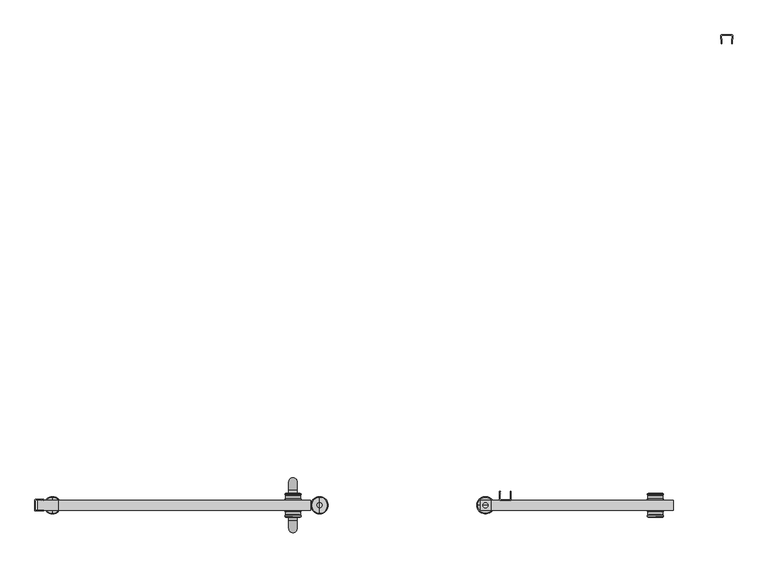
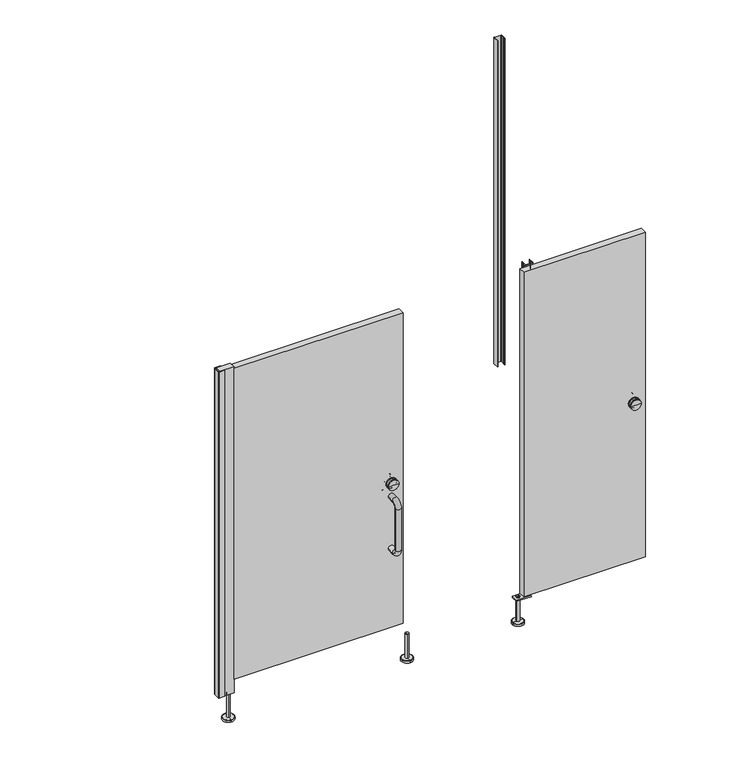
"""IFC4 building model written with IfcOpenShell, lengths in millimetres: proxy geometry, Partition_EuroStyle-Bradley_Corp-ADAStall_1StandardStall-LOFT : Partition_EuroStyle-Bradley_Corp-ADAStall_1StandardStall-LOFT."""

from ifc_helpers import new_model, si_unit, point, frame, frame_2d, origin, place, context, project, spatial, polyline, circle_curve, ellipse_curve, trimmed, segment, composite_curve, outline, extrude, source, transform, mapped, element, save
from ifc_brep_helpers import plane_surface, cylinder_surface, revolved_surface, advanced_brep


def specialty_equipment_4b52170b(model_context):
    return source(origin(), model_context, "Body", "SolidModel", [
        extrude(outline(polyline([(146.0000008, 1477.4203258), (138.0669895, 1477.4203258), (138.0669895, 1557.2675589), (146.0000008, 1557.1689968), (146.0000008, 1477.4203258)])), frame((0.0, -1711.8621549, 0.0), z_axis=(0.0, 1.0, 0.0), x_axis=(0.0, 0.0, 1.0)), (0.0, 0.0, 1.0), 34.925),
        advanced_brep(
        [(1505.0203248, -1694.3996549, 150.0000008), (1487.0203255, -1694.3996549, 150.0000008), (1487.0203255, -1694.3996549, 12.0000001), (1505.0203248, -1694.3996549, 12.0000001), (1496.0203251, -1694.3996549, 150.0000008), (1527.0203241, -1694.3996549, 0.0), (1465.0203262, -1694.3996549, 0.0), (1496.0203251, -1694.3996549, 0.0), (1527.0203241, -1694.3996549, 10.0000001), (1465.0203262, -1694.3996549, 10.0000001), (1525.0179122, -1694.3996549, 12.0000001), (1467.0227381, -1694.3996549, 12.0000001)],
        [
            (0, 1, circle_curve(frame((1496.0203251, -1694.3996549, 150.0000008), z_axis=(0.0, 0.0, -1.0), x_axis=(-1.0, 0.0, 0.0)), 8.9999997)),
            (1, 2),
            (2, 3, circle_curve(frame((1496.0203251, -1694.3996549, 12.0000001), z_axis=(0.0, 0.0, 1.0), x_axis=(-1.0, 0.0, 0.0)), 8.9999997)),
            (3, 0),
            (1, 0, circle_curve(frame((1496.0203251, -1694.3996549, 150.0000008), z_axis=(0.0, 0.0, -1.0), x_axis=(-1.0, 0.0, 0.0)), 8.9999997)),
            (3, 2, circle_curve(frame((1496.0203251, -1694.3996549, 12.0000001), z_axis=(0.0, 0.0, 1.0), x_axis=(-1.0, 0.0, 0.0)), 8.9999997)),
            (4, 1),
            (0, 4),
            (5, 6, circle_curve(frame((1496.0203251, -1694.3996549, 0.0), z_axis=(0.0, 0.0, -1.0), x_axis=(-1.0, 0.0, 0.0)), 30.9999989)),
            (6, 7),
            (7, 5),
            (6, 5, circle_curve(frame((1496.0203251, -1694.3996549, 0.0), z_axis=(0.0, 0.0, -1.0), x_axis=(-1.0, 0.0, 0.0)), 30.9999989)),
            (8, 9, circle_curve(frame((1496.0203251, -1694.3996549, 10.0000001), z_axis=(0.0, 0.0, -1.0), x_axis=(-1.0, 0.0, 0.0)), 30.9999989)),
            (9, 6),
            (5, 8),
            (9, 8, circle_curve(frame((1496.0203251, -1694.3996549, 10.0000001), z_axis=(0.0, 0.0, -1.0), x_axis=(-1.0, 0.0, 0.0)), 30.9999989)),
            (10, 11, circle_curve(frame((1496.0203251, -1694.3996549, 12.0000001), z_axis=(0.0, 0.0, -1.0), x_axis=(-1.0, 0.0, 0.0)), 28.997587)),
            (11, 9),
            (8, 10),
            (11, 10, circle_curve(frame((1496.0203251, -1694.3996549, 12.0000001), z_axis=(0.0, 0.0, -1.0), x_axis=(-1.0, 0.0, 0.0)), 28.997587)),
            (2, 11),
            (10, 3),
        ],
        [
            cylinder_surface(frame((1496.0203251, -1694.3996549, 0.0), z_axis=(0.0, 0.0, 1.0), x_axis=(-1.0, 0.0, 0.0)), 8.9999997),
            plane_surface(frame((1496.0203251, -1694.3996549, 150.0000008), z_axis=(0.0, 0.0, 1.0), x_axis=(-1.0, 0.0, 0.0))),
            plane_surface(frame((1496.0203251, -1694.3996549, 0.0), z_axis=(0.0, 0.0, -1.0), x_axis=(-1.0, 0.0, 0.0))),
            cylinder_surface(frame((1496.0203251, -1694.3996549, 0.0), z_axis=(0.0, 0.0, 1.0), x_axis=(-1.0, 0.0, 0.0)), 30.9999989),
            revolved_surface(polyline([(1465.0203262, -1694.3996549, 10.0000001), (1467.0227381, -1694.3996549, 12.0000001)]), (1496.0203251, -1694.3996549, 0.0), (0.0, 0.0, 1.0)),
            plane_surface(frame((1496.0203251, -1694.3996549, 12.0000001), z_axis=(0.0, 0.0, 1.0), x_axis=(-1.0, 0.0, 0.0))),
        ],
        [
            (0, [[1, 2, 3, 4]]),
            (0, [[5, -4, 6, -2]]),
            (1, [[7, -1, 8]]),
            (1, [[-8, -5, -7]]),
            (2, [[9, 10, 11]]),
            (2, [[12, -11, -10]]),
            (3, [[13, 14, -9, 15]]),
            (3, [[16, -15, -12, -14]]),
            (4, [[17, 18, -13, 19]]),
            (4, [[20, -19, -16, -18]]),
            (5, [[-3, 21, -17, 22]]),
            (5, [[-6, -22, -20, -21]]),
        ],
    ),
        extrude(outline(composite_curve([segment(polyline([(1546.918717, -1643.8999998), (1548.4173026, -1643.8999998)]), True, "CONTINUOUS"), segment(trimmed(circle_curve(frame_2d((1548.4137352, -1644.8990918)), 0.9990984), [point((1548.4173026, -1643.8999998))], [point((1548.8873879, -1645.7787798))], False, "CARTESIAN"), True, "CONTINUOUS"), segment(polyline([(1548.8873879, -1645.7787798), (1548.7662779, -1653.0424298)]), True, "CONTINUOUS"), segment(trimmed(circle_curve(frame_2d((1548.248732, -1653.8999449)), 1.0015917), [point((1548.7662779, -1653.0424298))], [point((1548.7373979, -1654.7742398))], False, "CARTESIAN"), True, "CONTINUOUS"), segment(polyline([(1548.7373979, -1654.7742398), (1548.4433424, -1672.4104531)]), True, "CONTINUOUS"), segment(trimmed(circle_curve(frame_2d((1550.4435342, -1672.3997796)), 2.0002204), [point((1548.4433424, -1672.4104531))], [point((1550.4435342, -1674.4))], True, "CARTESIAN"), True, "CONTINUOUS"), segment(polyline([(1550.4435342, -1674.4), (1584.3278332, -1674.4)]), True, "CONTINUOUS"), segment(trimmed(circle_curve(frame_2d((1584.3768528, -1672.4009061)), 1.9996948), [point((1584.3278332, -1674.4))], [point((1586.3765475, -1672.4))], True, "CARTESIAN"), True, "CONTINUOUS"), segment(polyline([(1586.3765475, -1672.4), (1586.0824961, -1654.7739987)]), True, "CONTINUOUS"), segment(trimmed(circle_curve(frame_2d((1586.5715932, -1653.8999449)), 1.0015917), [point((1586.0824961, -1654.7739987))], [point((1586.0540473, -1653.0424298))], False, "CARTESIAN"), True, "CONTINUOUS"), segment(polyline([(1586.0540473, -1653.0424298), (1585.9329373, -1645.7787798)]), True, "CONTINUOUS"), segment(trimmed(circle_curve(frame_2d((1586.4065899, -1644.8990918)), 0.9990984), [point((1585.9329373, -1645.7787798))], [point((1586.4030225, -1643.8999998))], False, "CARTESIAN"), True, "CONTINUOUS"), segment(polyline([(1586.4030225, -1643.8999998), (1587.9016081, -1643.8999998), (1588.4099473, -1674.37082)]), True, "CONTINUOUS"), segment(trimmed(circle_curve(frame_2d((1586.3807672, -1674.37082)), 2.02918), [point((1588.4099473, -1674.37082))], [point((1586.3807672, -1676.4))], False, "CARTESIAN"), True, "CONTINUOUS"), segment(polyline([(1586.3807672, -1676.4), (1548.4395579, -1676.4)]), True, "CONTINUOUS"), segment(trimmed(circle_curve(frame_2d((1548.4395579, -1674.37082)), 2.02918), [point((1548.4395579, -1676.4))], [point((1546.4103779, -1674.37082))], False, "CARTESIAN"), True, "CONTINUOUS"), segment(polyline([(1546.4103779, -1674.37082), (1546.918717, -1643.8999998)]), True, "CONTINUOUS")], self_intersect=False)), frame((0.0, 0.0, 150.0), z_axis=(0.0, 0.0, 1.0), x_axis=(1.0, 0.0, 0.0)), (0.0, 0.0, 1.0), 1855.0),
        advanced_brep(
        [(787.6, -1676.4, 975.0), (817.6, -1676.4, 975.0), (787.6, -1676.4, 679.0), (817.6, -1676.4, 679.0), (817.6, -1640.4, 975.0), (787.6, -1640.4, 975.0), (817.6, -1610.4, 945.0), (817.6, -1610.4, 709.0), (787.6, -1610.4, 709.0), (787.6, -1610.4, 945.0), (817.6, -1640.4, 679.0), (787.6, -1640.4, 679.0)],
        [
            (0, 1, circle_curve(frame((802.6, -1676.4, 975.0), z_axis=(0.0, -1.0, 0.0), x_axis=(1.0, 0.0, 0.0)), 15.0)),
            (1, 0, circle_curve(frame((802.6, -1676.4, 975.0), z_axis=(0.0, -1.0, 0.0), x_axis=(1.0, 0.0, 0.0)), 15.0)),
            (2, 3, circle_curve(frame((802.6, -1676.4, 679.0), z_axis=(0.0, -1.0, 0.0), x_axis=(1.0, 0.0, 0.0)), 15.0)),
            (3, 2, circle_curve(frame((802.6, -1676.4, 679.0), z_axis=(0.0, -1.0, 0.0), x_axis=(1.0, 0.0, 0.0)), 15.0)),
            (1, 4),
            (4, 5, circle_curve(frame((802.6, -1640.4, 975.0), z_axis=(0.0, -1.0, 0.0), x_axis=(1.0, 0.0, 0.0)), 15.0)),
            (5, 0),
            (5, 4, circle_curve(frame((802.6, -1640.4, 975.0), z_axis=(0.0, -1.0, 0.0), x_axis=(1.0, 0.0, 0.0)), 15.0)),
            (6, 7),
            (7, 8, circle_curve(frame((802.6, -1610.4, 709.0), z_axis=(0.0, 0.0, 1.0), x_axis=(1.0, 0.0, 0.0)), 15.0)),
            (8, 9),
            (9, 6, circle_curve(frame((802.6, -1610.4, 945.0), z_axis=(0.0, 0.0, -1.0), x_axis=(1.0, 0.0, 0.0)), 15.0)),
            (8, 7, circle_curve(frame((802.6, -1610.4, 709.0), z_axis=(0.0, 0.0, 1.0), x_axis=(1.0, 0.0, 0.0)), 15.0)),
            (6, 9, circle_curve(frame((802.6, -1610.4, 945.0), z_axis=(0.0, 0.0, -1.0), x_axis=(1.0, 0.0, 0.0)), 15.0)),
            (10, 3),
            (2, 11),
            (11, 10, circle_curve(frame((802.6, -1640.4, 679.0), z_axis=(0.0, -1.0, 0.0), x_axis=(1.0, 0.0, 0.0)), 15.0)),
            (10, 11, circle_curve(frame((802.6, -1640.4, 679.0), z_axis=(0.0, -1.0, 0.0), x_axis=(1.0, 0.0, 0.0)), 15.0)),
            (9, 5, circle_curve(frame((787.6, -1640.4, 945.0), z_axis=(1.0, 0.0, 0.0), x_axis=(0.0, 0.0, 1.0)), 30.0)),
            (4, 6, circle_curve(frame((817.6, -1640.4, 945.0), z_axis=(-1.0, 0.0, 0.0), x_axis=(0.0, 0.0, 1.0)), 30.0)),
            (11, 8, circle_curve(frame((787.6, -1640.4, 709.0), z_axis=(1.0, 0.0, 0.0), x_axis=(0.0, 1.0, 0.0)), 30.0)),
            (7, 10, circle_curve(frame((817.6, -1640.4, 709.0), z_axis=(-1.0, 0.0, 0.0), x_axis=(0.0, 1.0, 0.0)), 30.0)),
        ],
        [
            plane_surface(frame((802.6, -1676.4, 975.0), z_axis=(0.0, -1.0, 0.0), x_axis=(1.0, 0.0, 0.0))),
            plane_surface(frame((802.6, -1676.4, 679.0), z_axis=(0.0, -1.0, 0.0), x_axis=(1.0, 0.0, 0.0))),
            cylinder_surface(frame((802.6, -1676.4, 975.0), z_axis=(0.0, -1.0, 0.0), x_axis=(1.0, 0.0, 0.0)), 15.0),
            cylinder_surface(frame((802.6, -1610.4, 945.0), z_axis=(0.0, 0.0, 1.0), x_axis=(1.0, 0.0, 0.0)), 15.0),
            cylinder_surface(frame((802.6, -1640.4, 679.0), z_axis=(0.0, 1.0, 0.0), x_axis=(1.0, 0.0, 0.0)), 15.0),
            revolved_surface(trimmed(ellipse_curve(frame((802.6, -1640.4, 975.0), z_axis=(0.0, 1.0, 0.0), x_axis=(1.0, 0.0, 0.0)), 15.0, 15.0), [point((787.6, -1640.4, 975.0))], [point((817.6, -1640.4, 975.0))], True, "CARTESIAN"), (802.6, -1640.4, 945.0), (1.0, 0.0, 0.0)),
            revolved_surface(trimmed(ellipse_curve(frame((802.6, -1640.4, 975.0), z_axis=(0.0, 1.0, 0.0), x_axis=(1.0, 0.0, 0.0)), 15.0, 15.0), [point((817.6, -1640.4, 975.0))], [point((787.6, -1640.4, 975.0))], True, "CARTESIAN"), (802.6, -1640.4, 945.0), (1.0, 0.0, 0.0)),
            revolved_surface(trimmed(ellipse_curve(frame((802.6, -1610.4, 709.0), z_axis=(0.0, 0.0, -1.0), x_axis=(1.0, 0.0, 0.0)), 15.0, 15.0), [point((787.6, -1610.4, 709.0))], [point((817.6, -1610.4, 709.0))], True, "CARTESIAN"), (802.6, -1640.4, 709.0), (1.0, 0.0, 0.0)),
            revolved_surface(trimmed(ellipse_curve(frame((802.6, -1610.4, 709.0), z_axis=(0.0, 0.0, -1.0), x_axis=(1.0, 0.0, 0.0)), 15.0, 15.0), [point((817.6, -1610.4, 709.0))], [point((787.6, -1610.4, 709.0))], True, "CARTESIAN"), (802.6, -1640.4, 709.0), (1.0, 0.0, 0.0)),
        ],
        [
            (0, [[1, 2]]),
            (1, [[3, 4]]),
            (2, [[5, 6, 7, -2]]),
            (2, [[-7, 8, -5, -1]]),
            (3, [[9, 10, 11, 12]]),
            (3, [[-11, 13, -9, 14]]),
            (4, [[15, -3, 16, 17]]),
            (4, [[-16, -4, -15, 18]]),
            (5, [[-12, 19, -6, 20]]),
            (6, [[-14, -20, -8, -19]]),
            (7, [[-17, 21, -10, 22]]),
            (8, [[-18, -22, -13, -21]]),
        ],
    ),
        advanced_brep(
        [(787.6, -1712.4203251, 975.0), (817.6, -1712.4203251, 975.0), (787.6, -1712.4203251, 679.0), (817.6, -1712.4203251, 679.0), (787.6, -1748.4203251, 975.0), (817.6, -1748.4203251, 975.0), (817.6, -1778.4203251, 945.0), (787.6, -1778.4203251, 945.0), (787.6, -1778.4203251, 709.0), (817.6, -1778.4203251, 709.0), (817.6, -1748.4203251, 679.0), (787.6, -1748.4203251, 679.0)],
        [
            (0, 1, circle_curve(frame((802.6, -1712.4203251, 975.0), z_axis=(0.0, 1.0, 0.0), x_axis=(1.0, 0.0, 0.0)), 15.0)),
            (1, 0, circle_curve(frame((802.6, -1712.4203251, 975.0), z_axis=(0.0, 1.0, 0.0), x_axis=(1.0, 0.0, 0.0)), 15.0)),
            (2, 3, circle_curve(frame((802.6, -1712.4203251, 679.0), z_axis=(0.0, 1.0, 0.0), x_axis=(1.0, 0.0, 0.0)), 15.0)),
            (3, 2, circle_curve(frame((802.6, -1712.4203251, 679.0), z_axis=(0.0, 1.0, 0.0), x_axis=(1.0, 0.0, 0.0)), 15.0)),
            (0, 4),
            (4, 5, circle_curve(frame((802.6, -1748.4203251, 975.0), z_axis=(0.0, 1.0, 0.0), x_axis=(1.0, 0.0, 0.0)), 15.0)),
            (5, 1),
            (5, 4, circle_curve(frame((802.6, -1748.4203251, 975.0), z_axis=(0.0, 1.0, 0.0), x_axis=(1.0, 0.0, 0.0)), 15.0)),
            (6, 7, circle_curve(frame((802.6, -1778.4203251, 945.0), z_axis=(0.0, 0.0, -1.0), x_axis=(1.0, 0.0, 0.0)), 15.0)),
            (7, 8),
            (8, 9, circle_curve(frame((802.6, -1778.4203251, 709.0), z_axis=(0.0, 0.0, 1.0), x_axis=(1.0, 0.0, 0.0)), 15.0)),
            (9, 6),
            (7, 6, circle_curve(frame((802.6, -1778.4203251, 945.0), z_axis=(0.0, 0.0, -1.0), x_axis=(1.0, 0.0, 0.0)), 15.0)),
            (9, 8, circle_curve(frame((802.6, -1778.4203251, 709.0), z_axis=(0.0, 0.0, 1.0), x_axis=(1.0, 0.0, 0.0)), 15.0)),
            (10, 11, circle_curve(frame((802.6, -1748.4203251, 679.0), z_axis=(0.0, 1.0, 0.0), x_axis=(1.0, 0.0, 0.0)), 15.0)),
            (11, 2),
            (3, 10),
            (11, 10, circle_curve(frame((802.6, -1748.4203251, 679.0), z_axis=(0.0, 1.0, 0.0), x_axis=(1.0, 0.0, 0.0)), 15.0)),
            (6, 5, circle_curve(frame((817.6, -1748.4203251, 945.0), z_axis=(-1.0, 0.0, 0.0), x_axis=(0.0, 0.0, 1.0)), 30.0)),
            (4, 7, circle_curve(frame((787.6, -1748.4203251, 945.0), z_axis=(1.0, 0.0, 0.0), x_axis=(0.0, 0.0, 1.0)), 30.0)),
            (10, 9, circle_curve(frame((817.6, -1748.4203251, 709.0), z_axis=(-1.0, 0.0, 0.0), x_axis=(0.0, -1.0, 0.0)), 30.0)),
            (8, 11, circle_curve(frame((787.6, -1748.4203251, 709.0), z_axis=(1.0, 0.0, 0.0), x_axis=(0.0, -1.0, 0.0)), 30.0)),
        ],
        [
            plane_surface(frame((802.6, -1712.4203251, 975.0), z_axis=(0.0, 1.0, 0.0), x_axis=(1.0, 0.0, 0.0))),
            plane_surface(frame((802.6, -1712.4203251, 679.0), z_axis=(0.0, 1.0, 0.0), x_axis=(1.0, 0.0, 0.0))),
            cylinder_surface(frame((802.6, -1712.4203251, 975.0), z_axis=(0.0, 1.0, 0.0), x_axis=(1.0, 0.0, 0.0)), 15.0),
            cylinder_surface(frame((802.6, -1778.4203251, 945.0), z_axis=(0.0, 0.0, 1.0), x_axis=(1.0, 0.0, 0.0)), 15.0),
            cylinder_surface(frame((802.6, -1748.4203251, 679.0), z_axis=(0.0, -1.0, 0.0), x_axis=(1.0, 0.0, 0.0)), 15.0),
            revolved_surface(trimmed(ellipse_curve(frame((802.6, -1748.4203251, 975.0), z_axis=(0.0, 1.0, 0.0), x_axis=(1.0, 0.0, 0.0)), 15.0, 15.0), [point((787.6, -1748.4203251, 975.0))], [point((817.6, -1748.4203251, 975.0))], True, "CARTESIAN"), (802.6, -1748.4203251, 945.0), (1.0, 0.0, 0.0)),
            revolved_surface(trimmed(ellipse_curve(frame((802.6, -1748.4203251, 975.0), z_axis=(0.0, 1.0, 0.0), x_axis=(1.0, 0.0, 0.0)), 15.0, 15.0), [point((817.6, -1748.4203251, 975.0))], [point((787.6, -1748.4203251, 975.0))], True, "CARTESIAN"), (802.6, -1748.4203251, 945.0), (1.0, 0.0, 0.0)),
            revolved_surface(trimmed(ellipse_curve(frame((802.6, -1778.4203251, 709.0), z_axis=(0.0, 0.0, 1.0), x_axis=(1.0, 0.0, 0.0)), 15.0, 15.0), [point((787.6, -1778.4203251, 709.0))], [point((817.6, -1778.4203251, 709.0))], True, "CARTESIAN"), (802.6, -1748.4203251, 709.0), (1.0, 0.0, 0.0)),
            revolved_surface(trimmed(ellipse_curve(frame((802.6, -1778.4203251, 709.0), z_axis=(0.0, 0.0, 1.0), x_axis=(1.0, 0.0, 0.0)), 15.0, 15.0), [point((817.6, -1778.4203251, 709.0))], [point((787.6, -1778.4203251, 709.0))], True, "CARTESIAN"), (802.6, -1748.4203251, 709.0), (1.0, 0.0, 0.0)),
        ],
        [
            (0, [[1, 2]]),
            (1, [[3, 4]]),
            (2, [[-1, 5, 6, 7]]),
            (2, [[-2, -7, 8, -5]]),
            (3, [[9, 10, 11, 12]]),
            (3, [[13, -12, 14, -10]]),
            (4, [[15, 16, -4, 17]]),
            (4, [[18, -17, -3, -16]]),
            (5, [[19, -6, 20, -9]]),
            (6, [[-20, -8, -19, -13]]),
            (7, [[21, -11, 22, -15]]),
            (8, [[-22, -14, -21, -18]]),
        ],
    ),
        advanced_brep(
        [(774.025, -1676.4203251, 1050.0), (831.175, -1676.4203251, 1050.0), (802.6, -1676.4203251, 1050.0), (774.025, -1671.6578251, 1050.0), (831.175, -1671.6578251, 1050.0), (774.025, -1652.6078251, 1050.0), (831.175, -1652.6078251, 1050.0), (831.175, -1657.3703251, 1050.0), (774.025, -1657.3703251, 1050.0), (829.5875, -1658.9578251, 1050.0), (775.6125, -1658.9578251, 1050.0), (829.5875, -1670.0703251, 1050.0), (775.6125, -1670.0703251, 1050.0), (802.6, -1651.0203251, 1050.0)],
        [
            (0, 1, circle_curve(frame((802.6, -1676.4203251, 1050.0), z_axis=(0.0, -1.0, 0.0), x_axis=(1.0, 0.0, 0.0)), 28.575)),
            (1, 2),
            (2, 0),
            (1, 0, circle_curve(frame((802.6, -1676.4203251, 1050.0), z_axis=(0.0, -1.0, 0.0), x_axis=(1.0, 0.0, 0.0)), 28.575)),
            (3, 4, circle_curve(frame((802.6, -1671.6578251, 1050.0), z_axis=(0.0, -1.0, 0.0), x_axis=(1.0, 0.0, 0.0)), 28.575)),
            (4, 1),
            (0, 3),
            (4, 3, circle_curve(frame((802.6, -1671.6578251, 1050.0), z_axis=(0.0, -1.0, 0.0), x_axis=(1.0, 0.0, 0.0)), 28.575)),
            (5, 6, circle_curve(frame((802.6, -1652.6078251, 1050.0), z_axis=(0.0, -1.0, 0.0), x_axis=(1.0, 0.0, 0.0)), 28.575)),
            (6, 7),
            (7, 8, circle_curve(frame((802.6, -1657.3703251, 1050.0), z_axis=(0.0, 1.0, 0.0), x_axis=(1.0, 0.0, 0.0)), 28.575)),
            (8, 5),
            (6, 5, circle_curve(frame((802.6, -1652.6078251, 1050.0), z_axis=(0.0, -1.0, 0.0), x_axis=(1.0, 0.0, 0.0)), 28.575)),
            (8, 7, circle_curve(frame((802.6, -1657.3703251, 1050.0), z_axis=(0.0, 1.0, 0.0), x_axis=(1.0, 0.0, 0.0)), 28.575)),
            (7, 9, circle_curve(frame((831.175, -1658.9578251, 1050.0), z_axis=(0.0, 0.0, 1.0), x_axis=(1.0, 0.0, 0.0)), 1.5875)),
            (9, 10, circle_curve(frame((802.6, -1658.9578251, 1050.0), z_axis=(0.0, 1.0, 0.0), x_axis=(1.0, 0.0, 0.0)), 26.9875)),
            (10, 8, circle_curve(frame((774.025, -1658.9578251, 1050.0), z_axis=(0.0, 0.0, 1.0), x_axis=(-1.0, 0.0, 0.0)), 1.5875)),
            (10, 9, circle_curve(frame((802.6, -1658.9578251, 1050.0), z_axis=(0.0, 1.0, 0.0), x_axis=(1.0, 0.0, 0.0)), 26.9875)),
            (9, 11),
            (11, 12, circle_curve(frame((802.6, -1670.0703251, 1050.0), z_axis=(0.0, 1.0, 0.0), x_axis=(1.0, 0.0, 0.0)), 26.9875)),
            (12, 10),
            (12, 11, circle_curve(frame((802.6, -1670.0703251, 1050.0), z_axis=(0.0, 1.0, 0.0), x_axis=(1.0, 0.0, 0.0)), 26.9875)),
            (11, 4, circle_curve(frame((831.175, -1670.0703251, 1050.0), z_axis=(0.0, 0.0, 1.0), x_axis=(1.0, 0.0, 0.0)), 1.5875)),
            (3, 12, circle_curve(frame((774.025, -1670.0703251, 1050.0), z_axis=(0.0, 0.0, 1.0), x_axis=(-1.0, 0.0, 0.0)), 1.5875)),
            (13, 6, circle_curve(frame((806.2941234, -1842.4948544, 1050.0), z_axis=(0.0, 0.0, -1.0), x_axis=(1.0, 0.0, 0.0)), 191.5101613)),
            (5, 13, circle_curve(frame((798.9058766, -1842.4948544, 1050.0), z_axis=(0.0, 0.0, -1.0), x_axis=(-1.0, 0.0, 0.0)), 191.5101613)),
        ],
        [
            plane_surface(frame((802.6, -1676.4203251, 1050.0), z_axis=(0.0, -1.0, 0.0), x_axis=(1.0, 0.0, 0.0))),
            cylinder_surface(frame((802.6, -1676.4203251, 1050.0), z_axis=(0.0, 1.0, 0.0), x_axis=(1.0, 0.0, 0.0)), 28.575),
            revolved_surface(trimmed(ellipse_curve(frame((831.175, -1658.9578251, 1050.0), z_axis=(0.0, 0.0, -1.0), x_axis=(1.0, 0.0, 0.0)), 1.5875, 1.5875), [point((829.5875, -1658.9578251, 1050.0))], [point((831.175, -1657.3703251, 1050.0))], True, "CARTESIAN"), (802.6, -1676.4203251, 1050.0), (0.0, 1.0, 0.0)),
            cylinder_surface(frame((802.6, -1676.4203251, 1050.0), z_axis=(0.0, 1.0, 0.0), x_axis=(1.0, 0.0, 0.0)), 26.9875),
            revolved_surface(trimmed(ellipse_curve(frame((831.175, -1670.0703251, 1050.0), z_axis=(0.0, 0.0, -1.0), x_axis=(1.0, 0.0, 0.0)), 1.5875, 1.5875), [point((831.175, -1671.6578251, 1050.0))], [point((829.5875, -1670.0703251, 1050.0))], True, "CARTESIAN"), (802.6, -1676.4203251, 1050.0), (0.0, 1.0, 0.0)),
            revolved_surface(trimmed(ellipse_curve(frame((806.2941234, -1842.4948544, 1050.0), z_axis=(0.0, 0.0, 1.0), x_axis=(1.0, 0.0, 0.0)), 191.5101613, 191.5101613), [point((831.175, -1652.6078251, 1050.0))], [point((802.6, -1651.0203251, 1050.0))], True, "CARTESIAN"), (802.6, -1676.4203251, 1050.0), (0.0, 1.0, 0.0)),
        ],
        [
            (0, [[1, 2, 3]]),
            (0, [[4, -3, -2]]),
            (1, [[5, 6, -1, 7]]),
            (1, [[8, -7, -4, -6]]),
            (1, [[9, 10, 11, 12]]),
            (1, [[13, -12, 14, -10]]),
            (2, [[-11, 15, 16, 17]]),
            (2, [[-14, -17, 18, -15]]),
            (3, [[-16, 19, 20, 21]]),
            (3, [[-18, -21, 22, -19]]),
            (4, [[-20, 23, -5, 24]]),
            (4, [[-22, -24, -8, -23]]),
            (5, [[25, -9, 26]]),
            (5, [[-26, -13, -25]]),
        ],
    ),
        advanced_brep(
        [(802.6, -1712.4203251, 1050.0), (831.175, -1712.4203251, 1050.0), (774.025, -1712.4203251, 1050.0), (831.175, -1717.1828251, 1050.0), (774.025, -1717.1828251, 1050.0), (774.025, -1731.4703251, 1050.0), (831.175, -1731.4703251, 1050.0), (831.175, -1736.2328251, 1050.0), (774.025, -1736.2328251, 1050.0), (775.6125, -1729.8828251, 1050.0), (829.5875, -1729.8828251, 1050.0), (775.6125, -1718.7703251, 1050.0), (829.5875, -1718.7703251, 1050.0), (802.6, -1737.8203251, 1050.0)],
        [
            (0, 1),
            (1, 2, circle_curve(frame((802.6, -1712.4203251, 1050.0), z_axis=(0.0, 1.0, 0.0), x_axis=(1.0, 0.0, 0.0)), 28.575)),
            (2, 0),
            (2, 1, circle_curve(frame((802.6, -1712.4203251, 1050.0), z_axis=(0.0, 1.0, 0.0), x_axis=(1.0, 0.0, 0.0)), 28.575)),
            (1, 3),
            (3, 4, circle_curve(frame((802.6, -1717.1828251, 1050.0), z_axis=(0.0, 1.0, 0.0), x_axis=(1.0, 0.0, 0.0)), 28.575)),
            (4, 2),
            (4, 3, circle_curve(frame((802.6, -1717.1828251, 1050.0), z_axis=(0.0, 1.0, 0.0), x_axis=(1.0, 0.0, 0.0)), 28.575)),
            (5, 6, circle_curve(frame((802.6, -1731.4703251, 1050.0), z_axis=(0.0, -1.0, 0.0), x_axis=(1.0, 0.0, 0.0)), 28.575)),
            (6, 7),
            (7, 8, circle_curve(frame((802.6, -1736.2328251, 1050.0), z_axis=(0.0, 1.0, 0.0), x_axis=(1.0, 0.0, 0.0)), 28.575)),
            (8, 5),
            (6, 5, circle_curve(frame((802.6, -1731.4703251, 1050.0), z_axis=(0.0, -1.0, 0.0), x_axis=(1.0, 0.0, 0.0)), 28.575)),
            (8, 7, circle_curve(frame((802.6, -1736.2328251, 1050.0), z_axis=(0.0, 1.0, 0.0), x_axis=(1.0, 0.0, 0.0)), 28.575)),
            (9, 10, circle_curve(frame((802.6, -1729.8828251, 1050.0), z_axis=(0.0, -1.0, 0.0), x_axis=(1.0, 0.0, 0.0)), 26.9875)),
            (10, 6, circle_curve(frame((831.175, -1729.8828251, 1050.0), z_axis=(0.0, 0.0, 1.0), x_axis=(1.0, 0.0, 0.0)), 1.5875)),
            (5, 9, circle_curve(frame((774.025, -1729.8828251, 1050.0), z_axis=(0.0, 0.0, 1.0), x_axis=(-1.0, 0.0, 0.0)), 1.5875)),
            (10, 9, circle_curve(frame((802.6, -1729.8828251, 1050.0), z_axis=(0.0, -1.0, 0.0), x_axis=(1.0, 0.0, 0.0)), 26.9875)),
            (11, 12, circle_curve(frame((802.6, -1718.7703251, 1050.0), z_axis=(0.0, -1.0, 0.0), x_axis=(1.0, 0.0, 0.0)), 26.9875)),
            (12, 10),
            (9, 11),
            (12, 11, circle_curve(frame((802.6, -1718.7703251, 1050.0), z_axis=(0.0, -1.0, 0.0), x_axis=(1.0, 0.0, 0.0)), 26.9875)),
            (3, 12, circle_curve(frame((831.175, -1718.7703251, 1050.0), z_axis=(0.0, 0.0, 1.0), x_axis=(1.0, 0.0, 0.0)), 1.5875)),
            (11, 4, circle_curve(frame((774.025, -1718.7703251, 1050.0), z_axis=(0.0, 0.0, 1.0), x_axis=(-1.0, 0.0, 0.0)), 1.5875)),
            (7, 13, circle_curve(frame((806.2941234, -1546.3457959, 1050.0), z_axis=(0.0, 0.0, -1.0), x_axis=(1.0, 0.0, 0.0)), 191.5101613)),
            (13, 8, circle_curve(frame((798.9058766, -1546.3457959, 1050.0), z_axis=(0.0, 0.0, -1.0), x_axis=(-1.0, 0.0, 0.0)), 191.5101613)),
        ],
        [
            plane_surface(frame((802.6, -1712.4203251, 1050.0), z_axis=(0.0, 1.0, 0.0), x_axis=(1.0, 0.0, 0.0))),
            cylinder_surface(frame((802.6, -1712.4203251, 1050.0), z_axis=(0.0, 1.0, 0.0), x_axis=(1.0, 0.0, 0.0)), 28.575),
            revolved_surface(trimmed(ellipse_curve(frame((831.175, -1729.8828251, 1050.0), z_axis=(0.0, 0.0, -1.0), x_axis=(1.0, 0.0, 0.0)), 1.5875, 1.5875), [point((831.175, -1731.4703251, 1050.0))], [point((829.5875, -1729.8828251, 1050.0))], True, "CARTESIAN"), (802.6, -1712.4203251, 1050.0), (0.0, 1.0, 0.0)),
            cylinder_surface(frame((802.6, -1712.4203251, 1050.0), z_axis=(0.0, 1.0, 0.0), x_axis=(1.0, 0.0, 0.0)), 26.9875),
            revolved_surface(trimmed(ellipse_curve(frame((831.175, -1718.7703251, 1050.0), z_axis=(0.0, 0.0, -1.0), x_axis=(1.0, 0.0, 0.0)), 1.5875, 1.5875), [point((829.5875, -1718.7703251, 1050.0))], [point((831.175, -1717.1828251, 1050.0))], True, "CARTESIAN"), (802.6, -1712.4203251, 1050.0), (0.0, 1.0, 0.0)),
            revolved_surface(trimmed(ellipse_curve(frame((806.2941234, -1546.3457959, 1050.0), z_axis=(0.0, 0.0, 1.0), x_axis=(1.0, 0.0, 0.0)), 191.5101613, 191.5101613), [point((802.6, -1737.8203251, 1050.0))], [point((831.175, -1736.2328251, 1050.0))], True, "CARTESIAN"), (802.6, -1712.4203251, 1050.0), (0.0, 1.0, 0.0)),
        ],
        [
            (0, [[1, 2, 3]]),
            (0, [[-3, 4, -1]]),
            (1, [[-2, 5, 6, 7]]),
            (1, [[-4, -7, 8, -5]]),
            (1, [[9, 10, 11, 12]]),
            (1, [[13, -12, 14, -10]]),
            (2, [[15, 16, -9, 17]]),
            (2, [[18, -17, -13, -16]]),
            (3, [[19, 20, -15, 21]]),
            (3, [[22, -21, -18, -20]]),
            (4, [[-6, 23, -19, 24]]),
            (4, [[-8, -24, -22, -23]]),
            (5, [[-11, 25, 26]]),
            (5, [[-14, -26, -25]]),
        ],
    ),
        extrude(outline(polyline([(-43.0032348, -1676.4), (866.1, -1676.4), (866.1, -1712.4203251), (-43.0032348, -1712.4203251), (-43.0032348, -1676.4)])), frame((0.0, 0.0, 228.6), z_axis=(0.0, 0.0, 1.0), x_axis=(1.0, 0.0, 0.0)), (0.0, 0.0, 1.0), 1767.4),
        advanced_brep(
        [(-63.5018313, -1685.4101629, 150.0000008), (-63.5018313, -1703.4101623, 150.0000008), (-63.5018313, -1703.4101623, 12.0000001), (-63.5018313, -1685.4101629, 12.0000001), (-63.5018313, -1694.4101626, 150.0000008), (-63.5018313, -1663.4101636, 0.0), (-63.5018313, -1725.4101615, 0.0), (-63.5018313, -1694.4101626, 0.0), (-63.5018313, -1663.4101636, 10.0000001), (-63.5018313, -1725.4101615, 10.0000001), (-63.5018313, -1665.4125756, 12.0000001), (-63.5018313, -1723.4077496, 12.0000001)],
        [
            (0, 1, circle_curve(frame((-63.5018313, -1694.4101626, 150.0000008), z_axis=(0.0, 0.0, -1.0), x_axis=(0.0, -1.0, 0.0)), 8.9999997)),
            (1, 2),
            (2, 3, circle_curve(frame((-63.5018313, -1694.4101626, 12.0000001), z_axis=(0.0, 0.0, 1.0), x_axis=(0.0, -1.0, 0.0)), 8.9999997)),
            (3, 0),
            (1, 0, circle_curve(frame((-63.5018313, -1694.4101626, 150.0000008), z_axis=(0.0, 0.0, -1.0), x_axis=(0.0, -1.0, 0.0)), 8.9999997)),
            (3, 2, circle_curve(frame((-63.5018313, -1694.4101626, 12.0000001), z_axis=(0.0, 0.0, 1.0), x_axis=(0.0, -1.0, 0.0)), 8.9999997)),
            (4, 1),
            (0, 4),
            (5, 6, circle_curve(frame((-63.5018313, -1694.4101626, 0.0), z_axis=(0.0, 0.0, -1.0), x_axis=(0.0, -1.0, 0.0)), 30.9999989)),
            (6, 7),
            (7, 5),
            (6, 5, circle_curve(frame((-63.5018313, -1694.4101626, 0.0), z_axis=(0.0, 0.0, -1.0), x_axis=(0.0, -1.0, 0.0)), 30.9999989)),
            (8, 9, circle_curve(frame((-63.5018313, -1694.4101626, 10.0000001), z_axis=(0.0, 0.0, -1.0), x_axis=(0.0, -1.0, 0.0)), 30.9999989)),
            (9, 6),
            (5, 8),
            (9, 8, circle_curve(frame((-63.5018313, -1694.4101626, 10.0000001), z_axis=(0.0, 0.0, -1.0), x_axis=(0.0, -1.0, 0.0)), 30.9999989)),
            (10, 11, circle_curve(frame((-63.5018313, -1694.4101626, 12.0000001), z_axis=(0.0, 0.0, -1.0), x_axis=(0.0, -1.0, 0.0)), 28.997587)),
            (11, 9),
            (8, 10),
            (11, 10, circle_curve(frame((-63.5018313, -1694.4101626, 12.0000001), z_axis=(0.0, 0.0, -1.0), x_axis=(0.0, -1.0, 0.0)), 28.997587)),
            (2, 11),
            (10, 3),
        ],
        [
            cylinder_surface(frame((-63.5018313, -1694.4101626, 0.0), z_axis=(0.0, 0.0, 1.0), x_axis=(0.0, -1.0, 0.0)), 8.9999997),
            plane_surface(frame((-63.5018313, -1694.4101626, 150.0000008), z_axis=(0.0, 0.0, 1.0), x_axis=(0.0, -1.0, 0.0))),
            plane_surface(frame((-63.5018313, -1694.4101626, 0.0), z_axis=(0.0, 0.0, -1.0), x_axis=(0.0, -1.0, 0.0))),
            cylinder_surface(frame((-63.5018313, -1694.4101626, 0.0), z_axis=(0.0, 0.0, 1.0), x_axis=(0.0, -1.0, 0.0)), 30.9999989),
            revolved_surface(polyline([(-63.5018313, -1725.4101615, 10.0000001), (-63.5018313, -1723.4077496, 12.0000001)]), (-63.5018313, -1694.4101626, 0.0), (0.0, 0.0, 1.0)),
            plane_surface(frame((-63.5018313, -1694.4101626, 12.0000001), z_axis=(0.0, 0.0, 1.0), x_axis=(0.0, -1.0, 0.0))),
        ],
        [
            (0, [[1, 2, 3, 4]]),
            (0, [[5, -4, 6, -2]]),
            (1, [[7, -1, 8]]),
            (1, [[-8, -5, -7]]),
            (2, [[9, 10, 11]]),
            (2, [[12, -11, -10]]),
            (3, [[13, 14, -9, 15]]),
            (3, [[16, -15, -12, -14]]),
            (4, [[17, 18, -13, 19]]),
            (4, [[20, -19, -16, -18]]),
            (5, [[-3, 21, -17, 22]]),
            (5, [[-6, -22, -20, -21]]),
        ],
    ),
        extrude(outline(composite_curve([segment(polyline([(-94.4999998, -1673.918717), (-94.4999998, -1675.4173026)]), True, "CONTINUOUS"), segment(trimmed(circle_curve(frame_2d((-95.4990918, -1675.4137352)), 0.9990984), [point((-94.4999998, -1675.4173026))], [point((-96.3787798, -1675.8873879))], False, "CARTESIAN"), True, "CONTINUOUS"), segment(polyline([(-96.3787798, -1675.8873879), (-103.6424298, -1675.7662779)]), True, "CONTINUOUS"), segment(trimmed(circle_curve(frame_2d((-104.4999449, -1675.248732)), 1.0015917), [point((-103.6424298, -1675.7662779))], [point((-105.3742398, -1675.7373979))], False, "CARTESIAN"), True, "CONTINUOUS"), segment(polyline([(-105.3742398, -1675.7373979), (-123.0104531, -1675.4433424)]), True, "CONTINUOUS"), segment(trimmed(circle_curve(frame_2d((-122.9997796, -1677.4435342)), 2.0002204), [point((-123.0104531, -1675.4433424))], [point((-125.0, -1677.4435342))], True, "CARTESIAN"), True, "CONTINUOUS"), segment(polyline([(-125.0, -1677.4435342), (-125.0, -1711.3278332)]), True, "CONTINUOUS"), segment(trimmed(circle_curve(frame_2d((-123.0009061, -1711.3768528)), 1.9996948), [point((-125.0, -1711.3278332))], [point((-123.0, -1713.3765475))], True, "CARTESIAN"), True, "CONTINUOUS"), segment(polyline([(-123.0, -1713.3765475), (-105.3739987, -1713.0824961)]), True, "CONTINUOUS"), segment(trimmed(circle_curve(frame_2d((-104.4999449, -1713.5715932)), 1.0015917), [point((-105.3739987, -1713.0824961))], [point((-103.6424298, -1713.0540473))], False, "CARTESIAN"), True, "CONTINUOUS"), segment(polyline([(-103.6424298, -1713.0540473), (-96.3787798, -1712.9329373)]), True, "CONTINUOUS"), segment(trimmed(circle_curve(frame_2d((-95.4990918, -1713.4065899)), 0.9990984), [point((-96.3787798, -1712.9329373))], [point((-94.4999998, -1713.4030225))], False, "CARTESIAN"), True, "CONTINUOUS"), segment(polyline([(-94.4999998, -1713.4030225), (-94.4999998, -1714.9016081), (-124.97082, -1715.4099473)]), True, "CONTINUOUS"), segment(trimmed(circle_curve(frame_2d((-124.97082, -1713.3807672)), 2.02918), [point((-124.97082, -1715.4099473))], [point((-127.0, -1713.3807672))], False, "CARTESIAN"), True, "CONTINUOUS"), segment(polyline([(-127.0, -1713.3807672), (-127.0, -1675.4395579)]), True, "CONTINUOUS"), segment(trimmed(circle_curve(frame_2d((-124.97082, -1675.4395579)), 2.02918), [point((-127.0, -1675.4395579))], [point((-124.97082, -1673.4103779))], False, "CARTESIAN"), True, "CONTINUOUS"), segment(polyline([(-124.97082, -1673.4103779), (-94.4999998, -1673.918717)]), True, "CONTINUOUS")], self_intersect=False)), frame((0.0, 0.0, 150.0), z_axis=(0.0, 0.0, 1.0), x_axis=(1.0, 0.0, 0.0)), (0.0, 0.0, 1.0), 1855.0),
        extrude(outline(polyline([(-117.000072, -1676.4), (-43.0032348, -1676.4), (-43.0032348, -1712.4203251), (-117.000072, -1712.4203251), (-117.000072, -1676.4)])), frame((0.0, 0.0, 150.0), z_axis=(0.0, 0.0, 1.0), x_axis=(1.0, 0.0, 0.0)), (0.0, 0.0, 1.0), 1855.0),
        advanced_brep(
        [(898.5233172, -1685.3996552, 150.0000008), (898.5233172, -1703.3996545, 150.0000008), (898.5233172, -1703.3996545, 12.0000001), (898.5233172, -1685.3996552, 12.0000001), (898.5233172, -1694.3996549, 150.0000008), (898.5233172, -1663.3996559, 0.0), (898.5233172, -1725.3996538, 0.0), (898.5233172, -1694.3996549, 0.0), (898.5233172, -1663.3996559, 10.0000001), (898.5233172, -1725.3996538, 10.0000001), (898.5233172, -1665.4020678, 12.0000001), (898.5233172, -1723.3972419, 12.0000001)],
        [
            (0, 1, circle_curve(frame((898.5233172, -1694.3996549, 150.0000008), z_axis=(0.0, 0.0, -1.0), x_axis=(0.0, -1.0, 0.0)), 8.9999997)),
            (1, 2),
            (2, 3, circle_curve(frame((898.5233172, -1694.3996549, 12.0000001), z_axis=(0.0, 0.0, 1.0), x_axis=(0.0, -1.0, 0.0)), 8.9999997)),
            (3, 0),
            (1, 0, circle_curve(frame((898.5233172, -1694.3996549, 150.0000008), z_axis=(0.0, 0.0, -1.0), x_axis=(0.0, -1.0, 0.0)), 8.9999997)),
            (3, 2, circle_curve(frame((898.5233172, -1694.3996549, 12.0000001), z_axis=(0.0, 0.0, 1.0), x_axis=(0.0, -1.0, 0.0)), 8.9999997)),
            (4, 1),
            (0, 4),
            (5, 6, circle_curve(frame((898.5233172, -1694.3996549, 0.0), z_axis=(0.0, 0.0, -1.0), x_axis=(0.0, -1.0, 0.0)), 30.9999989)),
            (6, 7),
            (7, 5),
            (6, 5, circle_curve(frame((898.5233172, -1694.3996549, 0.0), z_axis=(0.0, 0.0, -1.0), x_axis=(0.0, -1.0, 0.0)), 30.9999989)),
            (8, 9, circle_curve(frame((898.5233172, -1694.3996549, 10.0000001), z_axis=(0.0, 0.0, -1.0), x_axis=(0.0, -1.0, 0.0)), 30.9999989)),
            (9, 6),
            (5, 8),
            (9, 8, circle_curve(frame((898.5233172, -1694.3996549, 10.0000001), z_axis=(0.0, 0.0, -1.0), x_axis=(0.0, -1.0, 0.0)), 30.9999989)),
            (10, 11, circle_curve(frame((898.5233172, -1694.3996549, 12.0000001), z_axis=(0.0, 0.0, -1.0), x_axis=(0.0, -1.0, 0.0)), 28.997587)),
            (11, 9),
            (8, 10),
            (11, 10, circle_curve(frame((898.5233172, -1694.3996549, 12.0000001), z_axis=(0.0, 0.0, -1.0), x_axis=(0.0, -1.0, 0.0)), 28.997587)),
            (2, 11),
            (10, 3),
        ],
        [
            cylinder_surface(frame((898.5233172, -1694.3996549, 0.0), z_axis=(0.0, 0.0, 1.0), x_axis=(0.0, -1.0, 0.0)), 8.9999997),
            plane_surface(frame((898.5233172, -1694.3996549, 150.0000008), z_axis=(0.0, 0.0, 1.0), x_axis=(0.0, -1.0, 0.0))),
            plane_surface(frame((898.5233172, -1694.3996549, 0.0), z_axis=(0.0, 0.0, -1.0), x_axis=(0.0, -1.0, 0.0))),
            cylinder_surface(frame((898.5233172, -1694.3996549, 0.0), z_axis=(0.0, 0.0, 1.0), x_axis=(0.0, -1.0, 0.0)), 30.9999989),
            revolved_surface(polyline([(898.5233172, -1725.3996538, 10.0000001), (898.5233172, -1723.3972419, 12.0000001)]), (898.5233172, -1694.3996549, 0.0), (0.0, 0.0, 1.0)),
            plane_surface(frame((898.5233172, -1694.3996549, 12.0000001), z_axis=(0.0, 0.0, 1.0), x_axis=(0.0, -1.0, 0.0))),
        ],
        [
            (0, [[1, 2, 3, 4]]),
            (0, [[5, -4, 6, -2]]),
            (1, [[7, -1, 8]]),
            (1, [[-8, -5, -7]]),
            (2, [[9, 10, 11]]),
            (2, [[12, -11, -10]]),
            (3, [[13, 14, -9, 15]]),
            (3, [[16, -15, -12, -14]]),
            (4, [[17, 18, -13, 19]]),
            (4, [[20, -19, -16, -18]]),
            (5, [[-3, 21, -17, 22]]),
            (5, [[-6, -22, -20, -21]]),
        ],
    ),
        advanced_brep(
        [(2080.0451766, -1676.4098174, 1050.0), (2137.1951766, -1676.4098174, 1050.0), (2108.6201766, -1676.4098174, 1050.0), (2080.0451766, -1671.6473174, 1050.0), (2137.1951766, -1671.6473174, 1050.0), (2080.0451766, -1652.5973174, 1050.0), (2137.1951766, -1652.5973174, 1050.0), (2137.1951766, -1657.3598174, 1050.0), (2080.0451766, -1657.3598174, 1050.0), (2135.6076766, -1658.9473174, 1050.0), (2081.6326766, -1658.9473174, 1050.0), (2135.6076766, -1670.0598174, 1050.0), (2081.6326766, -1670.0598174, 1050.0), (2108.6201766, -1651.0098174, 1050.0)],
        [
            (0, 1, circle_curve(frame((2108.6201766, -1676.4098174, 1050.0), z_axis=(0.0, -1.0, 0.0), x_axis=(1.0, 0.0, 0.0)), 28.575)),
            (1, 2),
            (2, 0),
            (1, 0, circle_curve(frame((2108.6201766, -1676.4098174, 1050.0), z_axis=(0.0, -1.0, 0.0), x_axis=(1.0, 0.0, 0.0)), 28.575)),
            (3, 4, circle_curve(frame((2108.6201766, -1671.6473174, 1050.0), z_axis=(0.0, -1.0, 0.0), x_axis=(1.0, 0.0, 0.0)), 28.575)),
            (4, 1),
            (0, 3),
            (4, 3, circle_curve(frame((2108.6201766, -1671.6473174, 1050.0), z_axis=(0.0, -1.0, 0.0), x_axis=(1.0, 0.0, 0.0)), 28.575)),
            (5, 6, circle_curve(frame((2108.6201766, -1652.5973174, 1050.0), z_axis=(0.0, -1.0, 0.0), x_axis=(1.0, 0.0, 0.0)), 28.575)),
            (6, 7),
            (7, 8, circle_curve(frame((2108.6201766, -1657.3598174, 1050.0), z_axis=(0.0, 1.0, 0.0), x_axis=(1.0, 0.0, 0.0)), 28.575)),
            (8, 5),
            (6, 5, circle_curve(frame((2108.6201766, -1652.5973174, 1050.0), z_axis=(0.0, -1.0, 0.0), x_axis=(1.0, 0.0, 0.0)), 28.575)),
            (8, 7, circle_curve(frame((2108.6201766, -1657.3598174, 1050.0), z_axis=(0.0, 1.0, 0.0), x_axis=(1.0, 0.0, 0.0)), 28.575)),
            (7, 9, circle_curve(frame((2137.1951766, -1658.9473174, 1050.0), z_axis=(0.0, 0.0, 1.0), x_axis=(1.0, 0.0, 0.0)), 1.5875)),
            (9, 10, circle_curve(frame((2108.6201766, -1658.9473174, 1050.0), z_axis=(0.0, 1.0, 0.0), x_axis=(1.0, 0.0, 0.0)), 26.9875)),
            (10, 8, circle_curve(frame((2080.0451766, -1658.9473174, 1050.0), z_axis=(0.0, 0.0, 1.0), x_axis=(-1.0, 0.0, 0.0)), 1.5875)),
            (10, 9, circle_curve(frame((2108.6201766, -1658.9473174, 1050.0), z_axis=(0.0, 1.0, 0.0), x_axis=(1.0, 0.0, 0.0)), 26.9875)),
            (9, 11),
            (11, 12, circle_curve(frame((2108.6201766, -1670.0598174, 1050.0), z_axis=(0.0, 1.0, 0.0), x_axis=(1.0, 0.0, 0.0)), 26.9875)),
            (12, 10),
            (12, 11, circle_curve(frame((2108.6201766, -1670.0598174, 1050.0), z_axis=(0.0, 1.0, 0.0), x_axis=(1.0, 0.0, 0.0)), 26.9875)),
            (11, 4, circle_curve(frame((2137.1951766, -1670.0598174, 1050.0), z_axis=(0.0, 0.0, 1.0), x_axis=(1.0, 0.0, 0.0)), 1.5875)),
            (3, 12, circle_curve(frame((2080.0451766, -1670.0598174, 1050.0), z_axis=(0.0, 0.0, 1.0), x_axis=(-1.0, 0.0, 0.0)), 1.5875)),
            (13, 6, circle_curve(frame((2112.3143, -1842.4843466, 1050.0), z_axis=(0.0, 0.0, -1.0), x_axis=(1.0, 0.0, 0.0)), 191.5101613)),
            (5, 13, circle_curve(frame((2104.9260533, -1842.4843466, 1050.0), z_axis=(0.0, 0.0, -1.0), x_axis=(-1.0, 0.0, 0.0)), 191.5101613)),
        ],
        [
            plane_surface(frame((2108.6201766, -1676.4098174, 1050.0), z_axis=(0.0, -1.0, 0.0), x_axis=(1.0, 0.0, 0.0))),
            cylinder_surface(frame((2108.6201766, -1676.4098174, 1050.0), z_axis=(0.0, 1.0, 0.0), x_axis=(1.0, 0.0, 0.0)), 28.575),
            revolved_surface(trimmed(ellipse_curve(frame((2137.1951766, -1658.9473174, 1050.0), z_axis=(0.0, 0.0, -1.0), x_axis=(1.0, 0.0, 0.0)), 1.5875, 1.5875), [point((2135.6076766, -1658.9473174, 1050.0))], [point((2137.1951766, -1657.3598174, 1050.0))], True, "CARTESIAN"), (2108.6201766, -1676.4098174, 1050.0), (0.0, 1.0, 0.0)),
            cylinder_surface(frame((2108.6201766, -1676.4098174, 1050.0), z_axis=(0.0, 1.0, 0.0), x_axis=(1.0, 0.0, 0.0)), 26.9875),
            revolved_surface(trimmed(ellipse_curve(frame((2137.1951766, -1670.0598174, 1050.0), z_axis=(0.0, 0.0, -1.0), x_axis=(1.0, 0.0, 0.0)), 1.5875, 1.5875), [point((2137.1951766, -1671.6473174, 1050.0))], [point((2135.6076766, -1670.0598174, 1050.0))], True, "CARTESIAN"), (2108.6201766, -1676.4098174, 1050.0), (0.0, 1.0, 0.0)),
            revolved_surface(trimmed(ellipse_curve(frame((2112.3143, -1842.4843466, 1050.0), z_axis=(0.0, 0.0, 1.0), x_axis=(1.0, 0.0, 0.0)), 191.5101613, 191.5101613), [point((2137.1951766, -1652.5973174, 1050.0))], [point((2108.6201766, -1651.0098174, 1050.0))], True, "CARTESIAN"), (2108.6201766, -1676.4098174, 1050.0), (0.0, 1.0, 0.0)),
        ],
        [
            (0, [[1, 2, 3]]),
            (0, [[4, -3, -2]]),
            (1, [[5, 6, -1, 7]]),
            (1, [[8, -7, -4, -6]]),
            (1, [[9, 10, 11, 12]]),
            (1, [[13, -12, 14, -10]]),
            (2, [[-11, 15, 16, 17]]),
            (2, [[-14, -17, 18, -15]]),
            (3, [[-16, 19, 20, 21]]),
            (3, [[-18, -21, 22, -19]]),
            (4, [[-20, 23, -5, 24]]),
            (4, [[-22, -24, -8, -23]]),
            (5, [[25, -9, 26]]),
            (5, [[-26, -13, -25]]),
        ],
    ),
        advanced_brep(
        [(2108.6201766, -1712.4098174, 1050.0), (2137.1951766, -1712.4098174, 1050.0), (2080.0451766, -1712.4098174, 1050.0), (2137.1951766, -1717.1723174, 1050.0), (2080.0451766, -1717.1723174, 1050.0), (2080.0451766, -1731.4598174, 1050.0), (2137.1951766, -1731.4598174, 1050.0), (2137.1951766, -1736.2223174, 1050.0), (2080.0451766, -1736.2223174, 1050.0), (2081.6326766, -1729.8723174, 1050.0), (2135.6076766, -1729.8723174, 1050.0), (2081.6326766, -1718.7598174, 1050.0), (2135.6076766, -1718.7598174, 1050.0), (2108.6201766, -1737.8098174, 1050.0)],
        [
            (0, 1),
            (1, 2, circle_curve(frame((2108.6201766, -1712.4098174, 1050.0), z_axis=(0.0, 1.0, 0.0), x_axis=(1.0, 0.0, 0.0)), 28.575)),
            (2, 0),
            (2, 1, circle_curve(frame((2108.6201766, -1712.4098174, 1050.0), z_axis=(0.0, 1.0, 0.0), x_axis=(1.0, 0.0, 0.0)), 28.575)),
            (1, 3),
            (3, 4, circle_curve(frame((2108.6201766, -1717.1723174, 1050.0), z_axis=(0.0, 1.0, 0.0), x_axis=(1.0, 0.0, 0.0)), 28.575)),
            (4, 2),
            (4, 3, circle_curve(frame((2108.6201766, -1717.1723174, 1050.0), z_axis=(0.0, 1.0, 0.0), x_axis=(1.0, 0.0, 0.0)), 28.575)),
            (5, 6, circle_curve(frame((2108.6201766, -1731.4598174, 1050.0), z_axis=(0.0, -1.0, 0.0), x_axis=(1.0, 0.0, 0.0)), 28.575)),
            (6, 7),
            (7, 8, circle_curve(frame((2108.6201766, -1736.2223174, 1050.0), z_axis=(0.0, 1.0, 0.0), x_axis=(1.0, 0.0, 0.0)), 28.575)),
            (8, 5),
            (6, 5, circle_curve(frame((2108.6201766, -1731.4598174, 1050.0), z_axis=(0.0, -1.0, 0.0), x_axis=(1.0, 0.0, 0.0)), 28.575)),
            (8, 7, circle_curve(frame((2108.6201766, -1736.2223174, 1050.0), z_axis=(0.0, 1.0, 0.0), x_axis=(1.0, 0.0, 0.0)), 28.575)),
            (9, 10, circle_curve(frame((2108.6201766, -1729.8723174, 1050.0), z_axis=(0.0, -1.0, 0.0), x_axis=(1.0, 0.0, 0.0)), 26.9875)),
            (10, 6, circle_curve(frame((2137.1951766, -1729.8723174, 1050.0), z_axis=(0.0, 0.0, 1.0), x_axis=(1.0, 0.0, 0.0)), 1.5875)),
            (5, 9, circle_curve(frame((2080.0451766, -1729.8723174, 1050.0), z_axis=(0.0, 0.0, 1.0), x_axis=(-1.0, 0.0, 0.0)), 1.5875)),
            (10, 9, circle_curve(frame((2108.6201766, -1729.8723174, 1050.0), z_axis=(0.0, -1.0, 0.0), x_axis=(1.0, 0.0, 0.0)), 26.9875)),
            (11, 12, circle_curve(frame((2108.6201766, -1718.7598174, 1050.0), z_axis=(0.0, -1.0, 0.0), x_axis=(1.0, 0.0, 0.0)), 26.9875)),
            (12, 10),
            (9, 11),
            (12, 11, circle_curve(frame((2108.6201766, -1718.7598174, 1050.0), z_axis=(0.0, -1.0, 0.0), x_axis=(1.0, 0.0, 0.0)), 26.9875)),
            (3, 12, circle_curve(frame((2137.1951766, -1718.7598174, 1050.0), z_axis=(0.0, 0.0, 1.0), x_axis=(1.0, 0.0, 0.0)), 1.5875)),
            (11, 4, circle_curve(frame((2080.0451766, -1718.7598174, 1050.0), z_axis=(0.0, 0.0, 1.0), x_axis=(-1.0, 0.0, 0.0)), 1.5875)),
            (7, 13, circle_curve(frame((2112.3143, -1546.3352882, 1050.0), z_axis=(0.0, 0.0, -1.0), x_axis=(1.0, 0.0, 0.0)), 191.5101613)),
            (13, 8, circle_curve(frame((2104.9260533, -1546.3352882, 1050.0), z_axis=(0.0, 0.0, -1.0), x_axis=(-1.0, 0.0, 0.0)), 191.5101613)),
        ],
        [
            plane_surface(frame((2108.6201766, -1712.4098174, 1050.0), z_axis=(0.0, 1.0, 0.0), x_axis=(1.0, 0.0, 0.0))),
            cylinder_surface(frame((2108.6201766, -1712.4098174, 1050.0), z_axis=(0.0, 1.0, 0.0), x_axis=(1.0, 0.0, 0.0)), 28.575),
            revolved_surface(trimmed(ellipse_curve(frame((2137.1951766, -1729.8723174, 1050.0), z_axis=(0.0, 0.0, -1.0), x_axis=(1.0, 0.0, 0.0)), 1.5875, 1.5875), [point((2137.1951766, -1731.4598174, 1050.0))], [point((2135.6076766, -1729.8723174, 1050.0))], True, "CARTESIAN"), (2108.6201766, -1712.4098174, 1050.0), (0.0, 1.0, 0.0)),
            cylinder_surface(frame((2108.6201766, -1712.4098174, 1050.0), z_axis=(0.0, 1.0, 0.0), x_axis=(1.0, 0.0, 0.0)), 26.9875),
            revolved_surface(trimmed(ellipse_curve(frame((2137.1951766, -1718.7598174, 1050.0), z_axis=(0.0, 0.0, -1.0), x_axis=(1.0, 0.0, 0.0)), 1.5875, 1.5875), [point((2135.6076766, -1718.7598174, 1050.0))], [point((2137.1951766, -1717.1723174, 1050.0))], True, "CARTESIAN"), (2108.6201766, -1712.4098174, 1050.0), (0.0, 1.0, 0.0)),
            revolved_surface(trimmed(ellipse_curve(frame((2112.3143, -1546.3352882, 1050.0), z_axis=(0.0, 0.0, 1.0), x_axis=(1.0, 0.0, 0.0)), 191.5101613, 191.5101613), [point((2108.6201766, -1737.8098174, 1050.0))], [point((2137.1951766, -1736.2223174, 1050.0))], True, "CARTESIAN"), (2108.6201766, -1712.4098174, 1050.0), (0.0, 1.0, 0.0)),
        ],
        [
            (0, [[1, 2, 3]]),
            (0, [[-3, 4, -1]]),
            (1, [[-2, 5, 6, 7]]),
            (1, [[-4, -7, 8, -5]]),
            (1, [[9, 10, 11, 12]]),
            (1, [[13, -12, 14, -10]]),
            (2, [[15, 16, -9, 17]]),
            (2, [[18, -17, -13, -16]]),
            (3, [[19, 20, -15, 21]]),
            (3, [[22, -21, -18, -20]]),
            (4, [[-6, 23, -19, 24]]),
            (4, [[-8, -24, -22, -23]]),
            (5, [[-11, 25, 26]]),
            (5, [[-14, -26, -25]]),
        ],
    ),
        extrude(outline(polyline([(1517.0170903, -1676.3894923), (2172.1201766, -1676.3894923), (2172.1201766, -1712.4098174), (1517.0170903, -1712.4098174), (1517.0170903, -1676.3894923)])), frame((0.0, 0.0, 150.1179687), z_axis=(0.0, 0.0, 1.0), x_axis=(1.0, 0.0, 0.0)), (0.0, 0.0, 1.0), 1845.8820313),
        extrude(outline(composite_curve([segment(polyline([(2344.9288796, -32.5000002), (2344.4205405, -2.02918)]), True, "CONTINUOUS"), segment(trimmed(circle_curve(frame_2d((2346.4497205, -2.02918)), 2.02918), [point((2344.4205405, -2.02918))], [point((2346.4497205, 0.0))], False, "CARTESIAN"), True, "CONTINUOUS"), segment(polyline([(2346.4497205, 0.0), (2384.3909298, 0.0)]), True, "CONTINUOUS"), segment(trimmed(circle_curve(frame_2d((2384.3909298, -2.02918)), 2.02918), [point((2384.3909298, 0.0))], [point((2386.4201098, -2.02918))], False, "CARTESIAN"), True, "CONTINUOUS"), segment(polyline([(2386.4201098, -2.02918), (2385.9117707, -32.5000002), (2384.4131851, -32.5000002)]), True, "CONTINUOUS"), segment(trimmed(circle_curve(frame_2d((2384.4167525, -31.5009082)), 0.9990984), [point((2384.4131851, -32.5000002))], [point((2383.9430999, -30.6212202))], False, "CARTESIAN"), True, "CONTINUOUS"), segment(polyline([(2383.9430999, -30.6212202), (2384.0642099, -23.3575702)]), True, "CONTINUOUS"), segment(trimmed(circle_curve(frame_2d((2384.5817558, -22.5000551)), 1.0015917), [point((2384.0642099, -23.3575702))], [point((2384.0926587, -21.6260013))], False, "CARTESIAN"), True, "CONTINUOUS"), segment(polyline([(2384.0926587, -21.6260013), (2384.38671, -4.0)]), True, "CONTINUOUS"), segment(trimmed(circle_curve(frame_2d((2382.3870154, -3.9990939)), 1.9996948), [point((2384.38671, -4.0))], [point((2382.3379958, -2.0))], True, "CARTESIAN"), True, "CONTINUOUS"), segment(polyline([(2382.3379958, -2.0), (2348.4536968, -2.0)]), True, "CONTINUOUS"), segment(trimmed(circle_curve(frame_2d((2348.4536968, -4.0002204)), 2.0002204), [point((2348.4536968, -2.0))], [point((2346.4535049, -3.9895469))], True, "CARTESIAN"), True, "CONTINUOUS"), segment(polyline([(2346.4535049, -3.9895469), (2346.7475604, -21.6257602)]), True, "CONTINUOUS"), segment(trimmed(circle_curve(frame_2d((2346.2588945, -22.5000551)), 1.0015917), [point((2346.7475604, -21.6257602))], [point((2346.7764404, -23.3575702))], False, "CARTESIAN"), True, "CONTINUOUS"), segment(polyline([(2346.7764404, -23.3575702), (2346.8975504, -30.6212202)]), True, "CONTINUOUS"), segment(trimmed(circle_curve(frame_2d((2346.4238978, -31.5009082)), 0.9990984), [point((2346.8975504, -30.6212202))], [point((2346.4274652, -32.5000002))], False, "CARTESIAN"), True, "CONTINUOUS"), segment(polyline([(2346.4274652, -32.5000002), (2344.9288796, -32.5000002)]), True, "CONTINUOUS")], self_intersect=False)), frame((0.0, 0.0, 150.0), z_axis=(0.0, 0.0, 1.0), x_axis=(1.0, 0.0, 0.0)), (0.0, 0.0, 1.0), 1855.0),
    ])


if __name__ == "__main__":
    model = new_model("IFC4")
    model_context = context("Model", 3, world=origin())
    ifc_project = project(units=[si_unit("LENGTHUNIT", "METRE", prefix="MILLI")], contexts=[model_context])
    site = spatial("IfcSite", under=ifc_project)
    building = spatial("IfcBuilding", under=site)
    placement = place(None, origin())
    specialty_equipment_shape = specialty_equipment_4b52170b(model_context)
    element("IfcBuildingElementProxy", 1, Name="Partition_EuroStyle-Bradley_Corp-ADAStall_1StandardStall-LOFT : Partition_EuroStyle-Bradley_Corp-ADAStall_1StandardStall-LOFT", ObjectType="Partition_EuroStyle-Bradley_Corp-ADAStall_1StandardStall-LOFT : Partition_EuroStyle-Bradley_Corp-ADAStall_1StandardStall-LOFT", at=placement, inside=building, context=model_context, shape_type="MappedRepresentation", body=[
        mapped(specialty_equipment_shape, transform((0.0, 0.0, 0.0), x_axis=(1.0, 0.0, 0.0), y_axis=(0.0, 1.0, 0.0), z_axis=(0.0, 0.0, 1.0))),
    ])
    save(model, "model.ifc")
